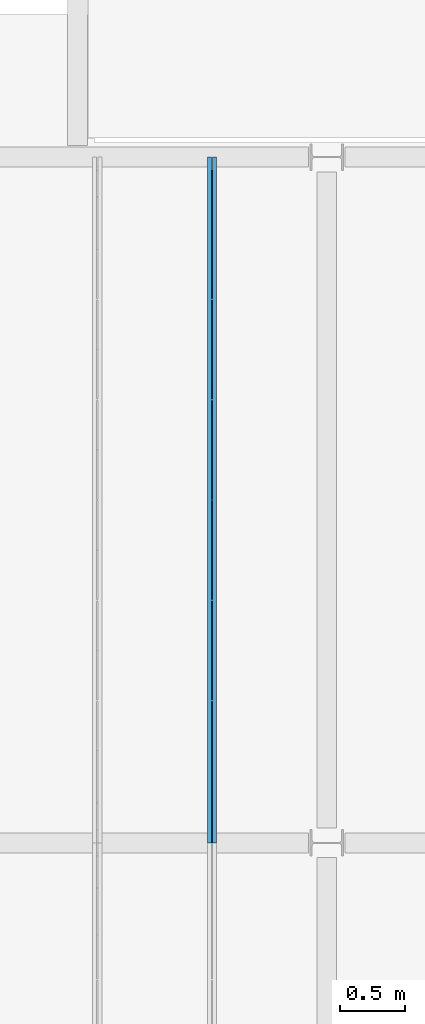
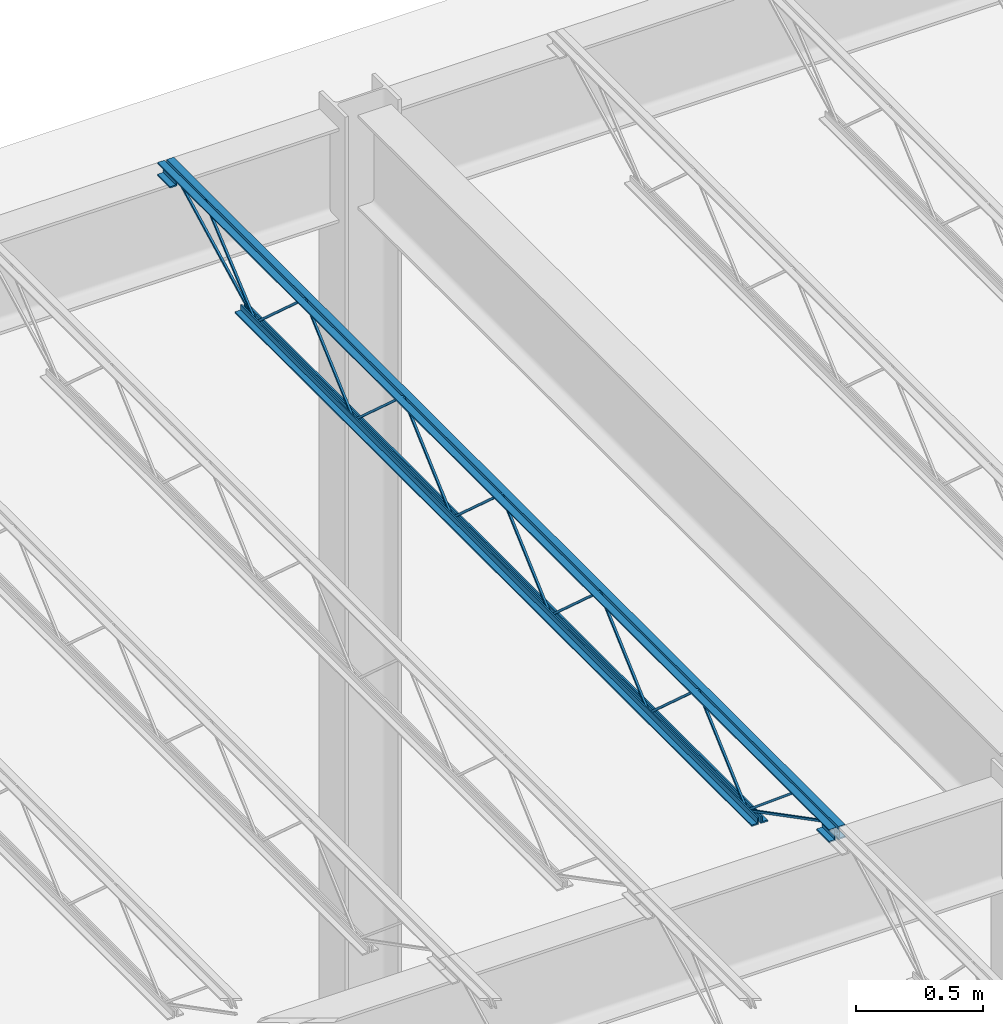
# One storey, part 87 of 119: 1 beam.
"""IFC2X3 building model written with IfcOpenShell, lengths in metres."""

from ifc_helpers import new_model, entity, si_unit, converted_unit, frame, origin, place, context, project, spatial, face_set, surface_model, element, save


model = new_model("IFC2X3")

# Units and contexts
model_context = context("Model", 3, precision=1e-09, world=origin())
plan_context = context("Plan", 3, precision=1e-09, world=origin())
ifc_project = project(units=[si_unit("LENGTHUNIT", "METRE"), si_unit("AREAUNIT", "SQUARE_METRE"), si_unit("VOLUMEUNIT", "CUBIC_METRE"), converted_unit("PLANEANGLEUNIT", "DEGREE", entity("IfcRatioMeasure", 0.01745329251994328), si_unit("PLANEANGLEUNIT", "RADIAN"), dimensions=[0, 0, 0, 0, 0, 0, 0]), si_unit("TIMEUNIT", "SECOND")], contexts=[model_context, plan_context])

# Site, building, storey
site_placement = place(None, origin())
site = spatial("IfcSite", under=ifc_project, at=site_placement, Name="Default", CompositionType="ELEMENT")
building_placement = place(site_placement, origin())
building = spatial("IfcBuilding", under=site, at=building_placement, CompositionType="ELEMENT")
storey_placement = place(building_placement, frame((0.0, 0.0, 4.570000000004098)))
storey = spatial("IfcBuildingStorey", under=building, at=storey_placement, Name="Second Floor", CompositionType="ELEMENT", Elevation=4.570000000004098)

# Beam
beam_placement = place(storey_placement, frame((-34.47550000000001, 44.78050000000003, 4.323999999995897)))
element("IfcBeam", 1, at=beam_placement, inside=storey, Name="M_K-Series Bar Joist-Rod Web:14K1:14K1", ObjectType="M_K-Series Bar Joist-Rod Web:14K1", context=model_context, shape_type="SurfaceModel", body=[
    surface_model("IfcFaceBasedSurfaceModel", [(0.04149999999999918, 3.042999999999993, 0.01110000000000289), (0.03200000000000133, 3.042999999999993, 0.01110000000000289), (0.03200000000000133, 3.042999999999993, 0.001600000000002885), (0.04149999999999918, 3.042999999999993, 0.001600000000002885), (0.03200000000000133, 3.044354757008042, 0.01110000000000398), (0.04149999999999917, 3.044354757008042, 0.01110000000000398), (0.03200000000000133, 3.047995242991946, 0.001600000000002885), (0.0320000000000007, 3.430145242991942, 0.3449000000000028), (0.0320000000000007, 3.432854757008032, 0.3449000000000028), (0.03200000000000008, 3.815004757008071, 0.001600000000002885), (0.03200000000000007, 3.819999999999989, 0.001600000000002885), (0.03200000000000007, 3.819999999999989, 0.01110000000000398), (0.03200000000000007, 3.818645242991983, 0.01110000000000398), (0.0320000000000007, 3.436495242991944, 0.3544000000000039), (0.03200000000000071, 3.426504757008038, 0.3544000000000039), (0.0415000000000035, 3.047995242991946, 0.001600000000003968), (0.04149999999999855, 3.43014524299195, 0.3449000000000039), (0.04149999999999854, 3.432854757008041, 0.3449000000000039), (0.04149999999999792, 3.815004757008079, 0.001600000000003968), (0.04149999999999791, 3.819999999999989, 0.001600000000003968), (0.04149999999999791, 3.819999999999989, 0.01110000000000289), (0.04149999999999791, 3.818645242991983, 0.01110000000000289), (0.04149999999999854, 3.436495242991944, 0.3544000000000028), (0.04149999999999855, 3.426504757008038, 0.3544000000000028), (0.04150000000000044, 2.265999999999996, 0.01110000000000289), (0.0320000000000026, 2.265999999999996, 0.01110000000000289), (0.0320000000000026, 2.265999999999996, 0.001600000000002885), (0.04150000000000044, 2.265999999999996, 0.001600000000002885), (0.0320000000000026, 2.267354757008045, 0.01110000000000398), (0.04150000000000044, 2.267354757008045, 0.01110000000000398), (0.0320000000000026, 2.270995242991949, 0.001600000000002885), (0.03200000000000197, 2.653145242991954, 0.3449000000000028), (0.03200000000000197, 2.655854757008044, 0.3449000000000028), (0.03200000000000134, 3.038004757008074, 0.001600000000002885), (0.03200000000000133, 3.042999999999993, 0.01110000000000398), (0.03200000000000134, 3.041645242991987, 0.01110000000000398), (0.03200000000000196, 2.659495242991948, 0.3544000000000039), (0.03200000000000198, 2.649504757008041, 0.3544000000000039), (0.04150000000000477, 2.270995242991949, 0.001600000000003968), (0.04149999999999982, 2.653145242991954, 0.3449000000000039), (0.0414999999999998, 2.655854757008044, 0.3449000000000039), (0.04149999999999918, 3.038004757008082, 0.001600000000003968), (0.04149999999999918, 3.042999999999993, 0.001600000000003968), (0.04149999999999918, 3.041645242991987, 0.01110000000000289), (0.0414999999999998, 2.659495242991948, 0.3544000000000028), (0.04149999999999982, 2.649504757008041, 0.3544000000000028), (0.04150000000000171, 1.488999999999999, 0.01110000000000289), (0.03200000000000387, 1.488999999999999, 0.01110000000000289), (0.03200000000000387, 1.488999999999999, 0.001600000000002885), (0.04150000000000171, 1.488999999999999, 0.001600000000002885), (0.03200000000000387, 1.490354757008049, 0.01110000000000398), (0.04150000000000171, 1.490354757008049, 0.01110000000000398), (0.03200000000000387, 1.493995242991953, 0.001600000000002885), (0.03200000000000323, 1.876145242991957, 0.3449000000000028), (0.03200000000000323, 1.878854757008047, 0.3449000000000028), (0.03200000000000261, 2.261004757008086, 0.001600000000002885), (0.0320000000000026, 2.266000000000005, 0.001600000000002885), (0.0320000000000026, 2.265999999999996, 0.01110000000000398), (0.0320000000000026, 2.26464524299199, 0.01110000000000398), (0.03200000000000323, 1.882495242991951, 0.3544000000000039), (0.03200000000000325, 1.872504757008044, 0.3544000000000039), (0.04150000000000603, 1.493995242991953, 0.001600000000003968), (0.04150000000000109, 1.876145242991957, 0.3449000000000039), (0.04150000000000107, 1.878854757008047, 0.3449000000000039), (0.04150000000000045, 2.261004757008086, 0.001600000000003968), (0.04150000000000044, 2.265999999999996, 0.001600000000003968), (0.04150000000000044, 2.266000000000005, 0.01110000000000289), (0.04150000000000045, 2.26464524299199, 0.01110000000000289), (0.04150000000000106, 1.88249524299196, 0.3544000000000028), (0.04150000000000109, 1.872504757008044, 0.3544000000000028), (0.04149999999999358, 3.819999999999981, 0.01109999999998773), (0.03199999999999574, 3.819999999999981, 0.01109999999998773), (0.03199999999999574, 3.819999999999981, 0.001599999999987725), (0.04149999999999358, 3.819999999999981, 0.001599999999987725), (0.03199999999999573, 3.82135475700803, 0.01109999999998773), (0.04149999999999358, 3.82135475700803, 0.01109999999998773), (0.03199999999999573, 3.824995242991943, 0.001599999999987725), (0.03199999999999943, 4.207145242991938, 0.3448999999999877), (0.03199999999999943, 4.209854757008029, 0.3448999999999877), (0.03199999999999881, 4.592004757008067, 0.001599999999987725), (0.0319999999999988, 4.596999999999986, 0.001599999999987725), (0.03199999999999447, 4.596999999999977, 0.01109999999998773), (0.03199999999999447, 4.595645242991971, 0.01109999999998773), (0.0319999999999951, 4.213495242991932, 0.3543999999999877), (0.03199999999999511, 4.203504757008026, 0.3543999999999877), (0.0414999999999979, 3.824995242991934, 0.001599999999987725), (0.04149999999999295, 4.207145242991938, 0.3448999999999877), (0.04149999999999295, 4.209854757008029, 0.3448999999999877), (0.04149999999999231, 4.592004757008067, 0.001599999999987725), (0.04149999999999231, 4.596999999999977, 0.001599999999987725), (0.04149999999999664, 4.596999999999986, 0.01109999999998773), (0.04149999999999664, 4.59564524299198, 0.01109999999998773), (0.04149999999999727, 4.213495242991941, 0.3543999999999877), (0.04149999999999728, 4.203504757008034, 0.3543999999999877), (0.04149999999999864, 0.7120000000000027, 0.01110000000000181), (0.03200000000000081, 0.7120000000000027, 0.01110000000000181), (0.03200000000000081, 0.7120000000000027, 0.001600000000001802), (0.04149999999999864, 0.7120000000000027, 0.001600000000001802), (0.03200000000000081, 0.7133547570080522, 0.01110000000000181), (0.04149999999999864, 0.7133547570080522, 0.01110000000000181), (0.0320000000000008, 0.7169952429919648, 0.001600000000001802), (0.03200000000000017, 1.09914524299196, 0.3449000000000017), (0.03200000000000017, 1.101854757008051, 0.3449000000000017), (0.03200000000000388, 1.484004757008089, 0.001600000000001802), (0.03200000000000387, 1.489000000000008, 0.001600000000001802), (0.03199999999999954, 1.488999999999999, 0.01110000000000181), (0.03199999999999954, 1.487645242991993, 0.01110000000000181), (0.03200000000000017, 1.105495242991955, 0.3544000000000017), (0.03200000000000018, 1.095504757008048, 0.3544000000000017), (0.04150000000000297, 0.7169952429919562, 0.001600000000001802), (0.04149999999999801, 1.09914524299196, 0.3449000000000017), (0.04149999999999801, 1.101854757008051, 0.3449000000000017), (0.04149999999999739, 1.484004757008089, 0.001600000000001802), (0.04149999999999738, 1.488999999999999, 0.001600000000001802), (0.04150000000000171, 1.489000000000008, 0.01110000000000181), (0.04150000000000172, 1.487645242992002, 0.01110000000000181), (0.041499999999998, 1.105495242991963, 0.3544000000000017), (0.04149999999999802, 1.095504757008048, 0.3544000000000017), (0.03200000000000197, 5.309000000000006, 0.3559999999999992), (0.0, 5.309000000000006, 0.3559999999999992), (0.0, 5.309000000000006, 0.3494999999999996), (0.02550000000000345, 5.309000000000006, 0.3494999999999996), (0.02550000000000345, 5.309000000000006, 0.3239999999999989), (0.03200000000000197, 5.309000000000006, 0.3239999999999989), (0.04149999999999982, 5.309000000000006, 0.3559999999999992), (0.04149999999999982, 5.309000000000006, 0.3239999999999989), (0.04800000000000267, 5.309000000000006, 0.3239999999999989), (0.04800000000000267, 5.309000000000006, 0.3494999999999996), (0.0735000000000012, 5.309000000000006, 0.3494999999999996), (0.0735000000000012, 5.309000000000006, 0.3559999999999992), (0.03200000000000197, 0.0, 0.3559999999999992), (0.0, 0.0, 0.3559999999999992), (0.0, 0.0, 0.3494999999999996), (0.02550000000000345, 0.0, 0.3494999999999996), (0.02550000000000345, 0.0, 0.3239999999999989), (0.03200000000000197, 0.0, 0.3239999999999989), (0.0414999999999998, 0.0, 0.3559999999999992), (0.0414999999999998, 0.0, 0.3239999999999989), (0.04800000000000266, 0.0, 0.3239999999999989), (0.04800000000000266, 0.0, 0.3494999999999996), (0.07350000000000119, 0.0, 0.3494999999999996), (0.07350000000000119, 0.0, 0.3559999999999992), (0.04149999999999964, 0.09999999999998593, 0.2924999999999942), (0.07350000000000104, 0.09999999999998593, 0.2924999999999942), (0.07350000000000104, 0.09999999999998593, 0.2989999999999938), (0.04799999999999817, 0.09999999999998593, 0.2989999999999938), (0.04799999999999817, 0.09999999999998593, 0.3239999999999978), (0.04149999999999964, 0.09999999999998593, 0.3239999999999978), (0.0, 0.09999999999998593, 0.2924999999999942), (0.03200000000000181, 0.09999999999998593, 0.2924999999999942), (0.03200000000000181, 0.09999999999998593, 0.3239999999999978), (0.02549999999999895, 0.09999999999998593, 0.3239999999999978), (0.02549999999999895, 0.09999999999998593, 0.2989999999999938), (0.0, 0.09999999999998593, 0.2989999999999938), (0.0414999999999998, 0.0, 0.2924999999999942), (0.07350000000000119, 0.0, 0.2924999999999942), (0.07350000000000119, 0.0, 0.2989999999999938), (0.04799999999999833, 0.0, 0.2989999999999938), (0.04799999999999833, 0.0, 0.3239999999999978), (0.0414999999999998, 0.0, 0.3239999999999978), (0.0, 0.0, 0.2924999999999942), (0.03200000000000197, 0.0, 0.2924999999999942), (0.03200000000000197, 0.0, 0.3239999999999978), (0.02549999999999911, 0.0, 0.3239999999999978), (0.02549999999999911, 0.0, 0.2989999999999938), (0.0, 0.0, 0.2989999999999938), (0.03200000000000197, 5.309000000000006, 0.2924999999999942), (0.03200000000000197, 5.309000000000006, 0.3239999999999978), (0.02549999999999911, 5.309000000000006, 0.3239999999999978), (0.02549999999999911, 5.309000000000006, 0.2989999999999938), (0.0, 5.309000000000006, 0.2989999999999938), (0.0, 5.309000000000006, 0.2924999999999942), (0.04149999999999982, 5.309000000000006, 0.2924999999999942), (0.0735000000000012, 5.309000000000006, 0.2924999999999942), (0.0735000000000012, 5.309000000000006, 0.2989999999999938), (0.04799999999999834, 5.309000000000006, 0.2989999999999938), (0.04799999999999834, 5.309000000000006, 0.3239999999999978), (0.04149999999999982, 5.309000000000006, 0.3239999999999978), (0.03200000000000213, 5.209000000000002, 0.2924999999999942), (0.03200000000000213, 5.209000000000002, 0.3239999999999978), (0.02549999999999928, 5.209000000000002, 0.3239999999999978), (0.02549999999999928, 5.209000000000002, 0.2989999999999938), (0.0, 5.209000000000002, 0.2989999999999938), (0.0, 5.209000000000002, 0.2924999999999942), (0.04149999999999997, 5.209000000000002, 0.2924999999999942), (0.07350000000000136, 5.209000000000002, 0.2924999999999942), (0.07350000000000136, 5.209000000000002, 0.2989999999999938), (0.0479999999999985, 5.209000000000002, 0.2989999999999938), (0.0479999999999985, 5.209000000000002, 0.3239999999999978), (0.04149999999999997, 5.209000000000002, 0.3239999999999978), (0.03200000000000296, 4.697000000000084, 0.0), (0.03200000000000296, 4.697000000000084, 0.03199999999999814), (0.02550000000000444, 4.697000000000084, 0.03199999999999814), (0.02550000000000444, 4.697000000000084, 0.006499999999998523), (0.0, 4.697000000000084, 0.006499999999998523), (0.0, 4.697000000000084, 0.0), (0.04150000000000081, 4.697000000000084, 0.0), (0.0735000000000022, 4.697000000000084, 0.0), (0.0735000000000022, 4.697000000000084, 0.006499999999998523), (0.04800000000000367, 4.697000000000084, 0.006499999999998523), (0.04800000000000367, 4.697000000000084, 0.03199999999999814), (0.04150000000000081, 4.697000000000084, 0.03199999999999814), (0.03200000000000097, 0.6120000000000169, 0.0), (0.03200000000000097, 0.6120000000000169, 0.03199999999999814), (0.02550000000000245, 0.6120000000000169, 0.03199999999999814), (0.02550000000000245, 0.6120000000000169, 0.006499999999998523), (0.0, 0.6120000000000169, 0.006499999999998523), (0.0, 0.6120000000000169, 0.0), (0.04149999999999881, 0.6120000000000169, 0.0), (0.07350000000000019, 0.6120000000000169, 0.0), (0.07350000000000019, 0.6120000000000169, 0.006499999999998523), (0.04800000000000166, 0.6120000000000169, 0.006499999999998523), (0.04800000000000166, 0.6120000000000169, 0.03199999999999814), (0.04149999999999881, 0.6120000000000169, 0.03199999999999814), (0.04149999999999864, 0.7141882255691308, 0.01056594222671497), (0.0320000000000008, 0.7141882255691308, 0.01056594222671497), (0.03200000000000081, 0.709811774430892, 0.00213405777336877), (0.04149999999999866, 0.709811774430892, 0.00213405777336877), (0.04149999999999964, 0.1011592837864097, 0.3287499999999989), (0.0414999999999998, 0.0, 0.3287499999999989), (0.0414999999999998, 0.0, 0.3192499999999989), (0.04149999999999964, 0.09884071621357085, 0.3192499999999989), (0.03199999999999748, 0.09884071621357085, 0.3192499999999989), (0.03200000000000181, 0.1011592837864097, 0.3287499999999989), (0.03200000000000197, 0.0, 0.3287499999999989), (0.03200000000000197, 0.0, 0.3192499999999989), (0.04149999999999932, 0.3035428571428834, 0.3417000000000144), (0.03200000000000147, 0.3035428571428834, 0.3417000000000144), (0.03200000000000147, 0.3035428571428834, 0.3322000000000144), (0.04149999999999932, 0.3035428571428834, 0.3322000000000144), (0.03200000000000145, 0.3179658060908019, 0.3417000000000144), (0.04149999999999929, 0.3179658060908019, 0.3417000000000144), (0.03200000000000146, 0.3145199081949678, 0.3322000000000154), (0.03200000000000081, 0.7089547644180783, 0.002704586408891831), (0.0320000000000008, 0.7150452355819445, 0.009995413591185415), (0.04150000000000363, 0.3145199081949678, 0.3322000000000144), (0.04149999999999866, 0.7089547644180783, 0.002704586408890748), (0.04149999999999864, 0.7150452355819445, 0.009995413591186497), (0.04149999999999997, 5.211188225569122, 0.3197840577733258), (0.04149999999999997, 5.206811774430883, 0.328215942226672), (0.03200000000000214, 5.206811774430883, 0.328215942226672), (0.03200000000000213, 5.211188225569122, 0.3197840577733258), (0.04150000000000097, 4.599188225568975, 0.002134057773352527), (0.04150000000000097, 4.594811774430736, 0.01056594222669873), (0.03200000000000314, 4.594811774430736, 0.01056594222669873), (0.03200000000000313, 4.599188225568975, 0.002134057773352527), (0.04150000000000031, 5.00309445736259, 0.3460340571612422), (0.04150000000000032, 4.996934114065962, 0.35326594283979), (0.03200000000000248, 4.996934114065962, 0.3532659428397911), (0.03200000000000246, 5.00309445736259, 0.3460340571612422), (0.04150000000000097, 4.600080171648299, 0.002734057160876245), (0.04150000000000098, 4.593919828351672, 0.00996594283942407), (0.03200000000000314, 4.593919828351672, 0.00996594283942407), (0.03200000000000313, 4.600080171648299, 0.002734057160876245)], [face_set([[[0, 1, 2, 3]], [[1, 4, 5, 0]], [[2, 6, 7, 8, 9, 10, 11, 12, 13, 14, 4, 1]], [[3, 2, 6, 15]], [[0, 3, 15, 16, 17, 18, 19, 20, 21, 22, 23, 5]], [[4, 5, 23, 14]], [[15, 16, 7, 6]], [[14, 13, 22, 23]], [[16, 7, 8, 17]], [[13, 12, 21, 22]], [[17, 8, 9, 18]], [[20, 11, 10, 19]], [[12, 11, 20, 21]], [[18, 9, 10, 19]]]), face_set([[[24, 25, 26, 27]], [[25, 28, 29, 24]], [[26, 30, 31, 32, 33, 2, 34, 35, 36, 37, 28, 25]], [[27, 26, 30, 38]], [[24, 27, 38, 39, 40, 41, 42, 0, 43, 44, 45, 29]], [[28, 29, 45, 37]], [[38, 39, 31, 30]], [[37, 36, 44, 45]], [[39, 31, 32, 40]], [[36, 35, 43, 44]], [[40, 32, 33, 41]], [[0, 34, 2, 42]], [[35, 34, 0, 43]], [[41, 33, 2, 42]]]), face_set([[[46, 47, 48, 49]], [[47, 50, 51, 46]], [[48, 52, 53, 54, 55, 56, 57, 58, 59, 60, 50, 47]], [[49, 48, 52, 61]], [[46, 49, 61, 62, 63, 64, 65, 66, 67, 68, 69, 51]], [[50, 51, 69, 60]], [[61, 62, 53, 52]], [[60, 59, 68, 69]], [[62, 53, 54, 63]], [[59, 58, 67, 68]], [[63, 54, 55, 64]], [[66, 57, 56, 65]], [[58, 57, 66, 67]], [[64, 55, 56, 65]]]), face_set([[[70, 71, 72, 73]], [[71, 74, 75, 70]], [[72, 76, 77, 78, 79, 80, 81, 82, 83, 84, 74, 71]], [[73, 72, 76, 85]], [[70, 73, 85, 86, 87, 88, 89, 90, 91, 92, 93, 75]], [[74, 75, 93, 84]], [[85, 86, 77, 76]], [[84, 83, 92, 93]], [[86, 77, 78, 87]], [[83, 82, 91, 92]], [[87, 78, 79, 88]], [[90, 81, 80, 89]], [[82, 81, 90, 91]], [[88, 79, 80, 89]]]), face_set([[[94, 95, 96, 97]], [[95, 98, 99, 94]], [[96, 100, 101, 102, 103, 104, 105, 106, 107, 108, 98, 95]], [[97, 96, 100, 109]], [[94, 97, 109, 110, 111, 112, 113, 114, 115, 116, 117, 99]], [[98, 99, 117, 108]], [[109, 110, 101, 100]], [[108, 107, 116, 117]], [[110, 101, 102, 111]], [[107, 106, 115, 116]], [[111, 102, 103, 112]], [[114, 105, 104, 113]], [[106, 105, 114, 115]], [[112, 103, 104, 113]]]), face_set([[[118, 119, 120, 121, 122, 123]], [[124, 125, 126, 127, 128, 129]], [[130, 131, 132, 133, 134, 135]], [[136, 137, 138, 139, 140, 141]], [[123, 118, 130, 135]], [[122, 123, 135, 134]], [[121, 133, 134, 122]], [[120, 121, 133, 132]], [[119, 131, 132, 120]], [[118, 130, 131, 119]], [[129, 141, 136, 124]], [[128, 129, 141, 140]], [[127, 128, 140, 139]], [[126, 127, 139, 138]], [[125, 126, 138, 137]], [[124, 136, 137, 125]]]), face_set([[[142, 143, 144, 145, 146, 147]], [[148, 149, 150, 151, 152, 153]], [[154, 155, 156, 157, 158, 159]], [[160, 161, 162, 163, 164, 165]], [[147, 159, 154, 142]], [[146, 158, 159, 147]], [[145, 146, 158, 157]], [[144, 156, 157, 145]], [[143, 144, 156, 155]], [[142, 143, 155, 154]], [[153, 165, 160, 148]], [[152, 164, 165, 153]], [[151, 163, 164, 152]], [[150, 162, 163, 151]], [[149, 150, 162, 161]], [[148, 149, 161, 160]]]), face_set([[[166, 167, 168, 169, 170, 171]], [[172, 173, 174, 175, 176, 177]], [[178, 179, 180, 181, 182, 183]], [[184, 185, 186, 187, 188, 189]], [[171, 166, 178, 183]], [[170, 182, 183, 171]], [[169, 181, 182, 170]], [[168, 180, 181, 169]], [[167, 179, 180, 168]], [[166, 167, 179, 178]], [[177, 189, 184, 172]], [[176, 188, 189, 177]], [[175, 176, 188, 187]], [[174, 186, 187, 175]], [[173, 174, 186, 185]], [[172, 173, 185, 184]]]), face_set([[[190, 191, 192, 193, 194, 195]], [[196, 197, 198, 199, 200, 201]], [[202, 203, 204, 205, 206, 207]], [[208, 209, 210, 211, 212, 213]], [[195, 190, 202, 207]], [[194, 206, 207, 195]], [[193, 205, 206, 194]], [[192, 204, 205, 193]], [[191, 203, 204, 192]], [[190, 191, 203, 202]], [[201, 213, 208, 196]], [[200, 212, 213, 201]], [[199, 200, 212, 211]], [[198, 210, 211, 199]], [[197, 198, 210, 209]], [[196, 197, 209, 208]]]), face_set([[[214, 215, 216, 217]], [[217, 214, 218, 219, 220, 221]], [[216, 217, 221, 222]], [[215, 223, 224, 225, 222, 216]], [[214, 218, 223, 215]], [[219, 224, 225, 220]], [[222, 221, 220, 225]], [[218, 219, 224, 223]]]), face_set([[[226, 227, 228, 229]], [[227, 230, 231, 226]], [[228, 232, 233, 234, 230, 227]], [[229, 228, 232, 235]], [[226, 229, 235, 236, 237, 231]], [[237, 234, 233, 236]], [[230, 234, 237, 231]], [[235, 232, 233, 236]]]), face_set([[[238, 239, 240, 241]], [[242, 243, 244, 245]], [[241, 245, 242, 238]], [[240, 244, 245, 241]], [[239, 240, 244, 243]], [[238, 239, 243, 242]]]), face_set([[[246, 247, 248, 249]], [[250, 251, 252, 253]], [[249, 253, 250, 246]], [[248, 252, 253, 249]], [[247, 248, 252, 251]], [[246, 247, 251, 250]]])]),
])

save(model, "model.ifc")
